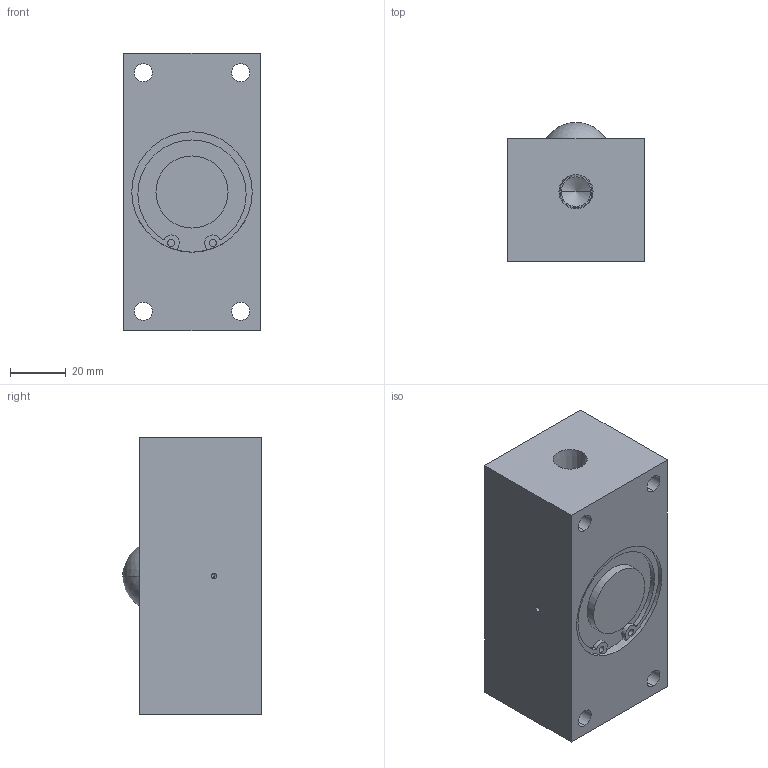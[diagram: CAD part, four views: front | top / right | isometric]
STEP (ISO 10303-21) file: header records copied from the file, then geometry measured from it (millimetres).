
FILE_DESCRIPTION (( 'STEP AP203' ), '1' );
FILE_NAME ('PVL55SW-1.STEP', '2016-01-06T01:59:47', ( '' ), ( '' ), 'SwSTEP 2.0', 'SolidWorks 2013', '' );
FILE_SCHEMA (( 'CONFIG_CONTROL_DESIGN' ));
Length unit declared in the file: millimetre
Products named in the file (1): PVL55SW-1
Bounding box: 49 x 50 x 100 mm (x, y, z)
Volume: 204793.7 mm3; surface area: 30329.6 mm2
Topology: 2 solids, 2 shells, 93 faces, 215 edges, 137 vertices
Faces by surface type: cylinder 50, plane 31, cone 10, sphere 2
Entity records: 2718 total; most frequent: DIRECTION 505, CARTESIAN_POINT 438, ORIENTED_EDGE 414, EDGE_CURVE 207, AXIS2_PLACEMENT_3D 204, VERTEX_POINT 137, EDGE_LOOP 120, CIRCLE 110
